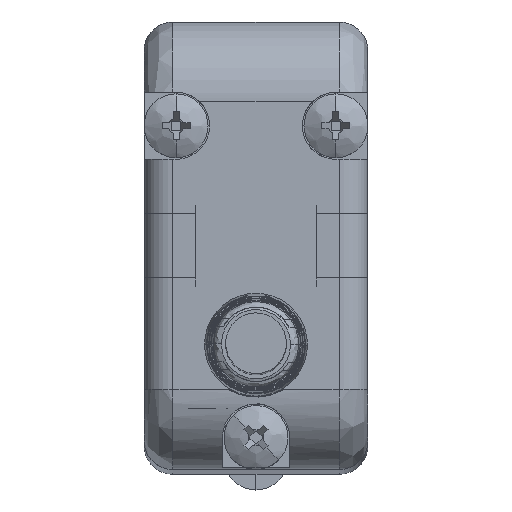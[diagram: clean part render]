
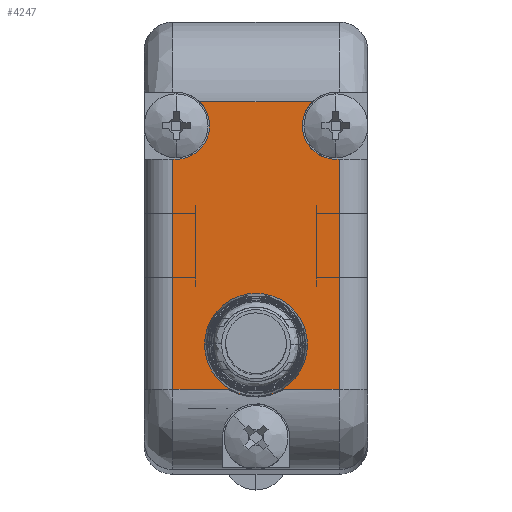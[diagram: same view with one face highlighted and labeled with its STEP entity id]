
A CAD part, top view. The second image highlights one B-rep face of the part: STEP entity #4247.
In plain terms, the highlighted planar face has unit normal (0, 0, 1).
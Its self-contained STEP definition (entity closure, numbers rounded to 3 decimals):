
#10 = CARTESIAN_POINT ( 'NONE',  ( -131.736, 28.822, 172.746 ) ) ;
#17 = CARTESIAN_POINT ( 'NONE',  ( -126.736, 15.122, 172.746 ) ) ;
#51 = EDGE_CURVE ( 'NONE', #11996, #1284, #303, .T. ) ;
#107 = CARTESIAN_POINT ( 'NONE',  ( -129.955, 15.157, 172.746 ) ) ;
#175 = LINE ( 'NONE', #1055, #6304 ) ;
#244 = DIRECTION ( 'NONE',  ( 1., 0., 0. ) ) ;
#303 = LINE ( 'NONE', #7861, #9903 ) ;
#339 = DIRECTION ( 'NONE',  ( 1., 0., 0. ) ) ;
#749 = CARTESIAN_POINT ( 'NONE',  ( -123.206, 30.322, 172.746 ) ) ;
#798 = EDGE_CURVE ( 'NONE', #5860, #9921, #5993, .T. ) ;
#936 = FACE_BOUND ( 'NONE', #7231, .T. ) ;
#1055 = CARTESIAN_POINT ( 'NONE',  ( -132.736, 26.722, 172.746 ) ) ;
#1160 = ORIENTED_EDGE ( 'NONE', *, *, #798, .F. ) ;
#1284 = VERTEX_POINT ( 'NONE', #749 ) ;
#1289 = DIRECTION ( 'NONE',  ( 0., 0., 1. ) ) ;
#1290 = EDGE_CURVE ( 'NONE', #1284, #4581, #4710, .T. ) ;
#1395 = EDGE_CURVE ( 'NONE', #1740, #9772, #3464, .T. ) ;
#1398 = EDGE_CURVE ( 'NONE', #6622, #12281, #175, .T. ) ;
#1499 = ORIENTED_EDGE ( 'NONE', *, *, #10835, .T. ) ;
#1699 = EDGE_CURVE ( 'NONE', #4384, #12281, #2804, .T. ) ;
#1703 = CARTESIAN_POINT ( 'NONE',  ( -130.266, 30.322, 172.746 ) ) ;
#1719 = VERTEX_POINT ( 'NONE', #8638 ) ;
#1740 = VERTEX_POINT ( 'NONE', #6887 ) ;
#1921 = DIRECTION ( 'NONE',  ( 0., 0., 1. ) ) ;
#1929 = DIRECTION ( 'NONE',  ( 0., 0., -1. ) ) ;
#1977 = CARTESIAN_POINT ( 'NONE',  ( -131.936, 21.322, 172.746 ) ) ;
#2210 = ORIENTED_EDGE ( 'NONE', *, *, #3969, .F. ) ;
#2219 = CARTESIAN_POINT ( 'NONE',  ( -131.736, 28.822, 172.746 ) ) ;
#2425 = VECTOR ( 'NONE', #4583, 1000. ) ;
#2804 = LINE ( 'NONE', #1977, #6503 ) ;
#2840 = EDGE_CURVE ( 'NONE', #12285, #5860, #9259, .T. ) ;
#3053 = CARTESIAN_POINT ( 'NONE',  ( -126.736, 15.122, 172.746 ) ) ;
#3107 = CARTESIAN_POINT ( 'NONE',  ( -121.536, 26.722, 172.746 ) ) ;
#3145 = VERTEX_POINT ( 'NONE', #12197 ) ;
#3200 = ORIENTED_EDGE ( 'NONE', *, *, #1395, .T. ) ;
#3464 = CIRCLE ( 'NONE', #5296, 3.219 ) ;
#3880 = VECTOR ( 'NONE', #4936, 1000. ) ;
#3890 = FACE_OUTER_BOUND ( 'NONE', #4741, .T. ) ;
#3969 = EDGE_CURVE ( 'NONE', #9921, #1719, #12265, .T. ) ;
#4095 = CARTESIAN_POINT ( 'NONE',  ( -125.037, 12.322, 172.746 ) ) ;
#4247 = ADVANCED_FACE ( 'NONE', ( #936, #3890 ), #5792, .F. ) ;
#4384 = VERTEX_POINT ( 'NONE', #6662 ) ;
#4581 = VERTEX_POINT ( 'NONE', #7956 ) ;
#4583 = DIRECTION ( 'NONE',  ( -1., 0., 0. ) ) ;
#4675 = EDGE_CURVE ( 'NONE', #3145, #11996, #10687, .T. ) ;
#4710 = CIRCLE ( 'NONE', #11725, 2.1 ) ;
#4715 = CARTESIAN_POINT ( 'NONE',  ( -121.736, 28.822, 172.746 ) ) ;
#4741 = EDGE_LOOP ( 'NONE', ( #6235, #2210, #1160, #7566, #1499, #9554, #5392, #11203, #6095, #8471, #6686 ) ) ;
#4766 = ORIENTED_EDGE ( 'NONE', *, *, #6156, .T. ) ;
#4850 = CIRCLE ( 'NONE', #11858, 2.1 ) ;
#4854 = CARTESIAN_POINT ( 'NONE',  ( -121.536, 12.322, 172.746 ) ) ;
#4873 = CARTESIAN_POINT ( 'NONE',  ( -131.736, 26.722, 172.746 ) ) ;
#4936 = DIRECTION ( 'NONE',  ( -1., 0., 0. ) ) ;
#5095 = DIRECTION ( 'NONE',  ( -1., 0., 0. ) ) ;
#5296 = AXIS2_PLACEMENT_3D ( 'NONE', #3053, #11557, #9669 ) ;
#5392 = ORIENTED_EDGE ( 'NONE', *, *, #51, .F. ) ;
#5546 = CARTESIAN_POINT ( 'NONE',  ( -120.736, 26.722, 172.746 ) ) ;
#5547 = DIRECTION ( 'NONE',  ( 1., 0., 0. ) ) ;
#5673 = AXIS2_PLACEMENT_3D ( 'NONE', #11436, #1929, #5856 ) ;
#5792 = PLANE ( 'NONE',  #5673 ) ;
#5856 = DIRECTION ( 'NONE',  ( 0., -1., 0. ) ) ;
#5860 = VERTEX_POINT ( 'NONE', #4854 ) ;
#5926 = DIRECTION ( 'NONE',  ( 0., 0., 1. ) ) ;
#5993 = LINE ( 'NONE', #11817, #3880 ) ;
#6095 = ORIENTED_EDGE ( 'NONE', *, *, #8347, .F. ) ;
#6156 = EDGE_CURVE ( 'NONE', #9772, #1740, #11795, .T. ) ;
#6197 = AXIS2_PLACEMENT_3D ( 'NONE', #8037, #8106, #5095 ) ;
#6235 = ORIENTED_EDGE ( 'NONE', *, *, #6759, .F. ) ;
#6245 = AXIS2_PLACEMENT_3D ( 'NONE', #17, #10642, #8754 ) ;
#6304 = VECTOR ( 'NONE', #8731, 1000. ) ;
#6503 = VECTOR ( 'NONE', #6668, 1000. ) ;
#6622 = VERTEX_POINT ( 'NONE', #4873 ) ;
#6662 = CARTESIAN_POINT ( 'NONE',  ( -131.936, 12.322, 172.746 ) ) ;
#6668 = DIRECTION ( 'NONE',  ( 0., 1., 0. ) ) ;
#6686 = ORIENTED_EDGE ( 'NONE', *, *, #1699, .F. ) ;
#6759 = EDGE_CURVE ( 'NONE', #1719, #4384, #8554, .T. ) ;
#6887 = CARTESIAN_POINT ( 'NONE',  ( -123.517, 15.086, 172.746 ) ) ;
#7231 = EDGE_LOOP ( 'NONE', ( #4766, #3200 ) ) ;
#7326 = CARTESIAN_POINT ( 'NONE',  ( -121.536, 21.322, 172.746 ) ) ;
#7413 = VECTOR ( 'NONE', #7604, 1000. ) ;
#7442 = DIRECTION ( 'NONE',  ( 0., -1., 0. ) ) ;
#7566 = ORIENTED_EDGE ( 'NONE', *, *, #2840, .F. ) ;
#7604 = DIRECTION ( 'NONE',  ( -1., 0., 0. ) ) ;
#7861 = CARTESIAN_POINT ( 'NONE',  ( -126.736, 30.322, 172.746 ) ) ;
#7956 = CARTESIAN_POINT ( 'NONE',  ( -121.736, 26.722, 172.746 ) ) ;
#8037 = CARTESIAN_POINT ( 'NONE',  ( -126.736, 15.122, 172.746 ) ) ;
#8106 = DIRECTION ( 'NONE',  ( 0., 0., -1. ) ) ;
#8347 = EDGE_CURVE ( 'NONE', #6622, #3145, #4850, .T. ) ;
#8471 = ORIENTED_EDGE ( 'NONE', *, *, #1398, .T. ) ;
#8554 = LINE ( 'NONE', #9732, #7413 ) ;
#8638 = CARTESIAN_POINT ( 'NONE',  ( -128.435, 12.322, 172.746 ) ) ;
#8731 = DIRECTION ( 'NONE',  ( -1., 0., 0. ) ) ;
#8754 = DIRECTION ( 'NONE',  ( -1., 0., 0. ) ) ;
#9259 = LINE ( 'NONE', #7326, #10124 ) ;
#9554 = ORIENTED_EDGE ( 'NONE', *, *, #1290, .F. ) ;
#9669 = DIRECTION ( 'NONE',  ( -1., 0., 0. ) ) ;
#9684 = DIRECTION ( 'NONE',  ( 1., 0., 0. ) ) ;
#9732 = CARTESIAN_POINT ( 'NONE',  ( -126.736, 12.322, 172.746 ) ) ;
#9772 = VERTEX_POINT ( 'NONE', #107 ) ;
#9903 = VECTOR ( 'NONE', #244, 1000. ) ;
#9908 = CARTESIAN_POINT ( 'NONE',  ( -131.936, 26.722, 172.746 ) ) ;
#9921 = VERTEX_POINT ( 'NONE', #4095 ) ;
#10124 = VECTOR ( 'NONE', #7442, 1000. ) ;
#10642 = DIRECTION ( 'NONE',  ( 0., 0., -1. ) ) ;
#10687 = CIRCLE ( 'NONE', #11680, 2.1 ) ;
#10835 = EDGE_CURVE ( 'NONE', #12285, #4581, #12255, .T. ) ;
#11203 = ORIENTED_EDGE ( 'NONE', *, *, #4675, .F. ) ;
#11436 = CARTESIAN_POINT ( 'NONE',  ( -121.536, 12.322, 172.746 ) ) ;
#11557 = DIRECTION ( 'NONE',  ( 0., 0., -1. ) ) ;
#11680 = AXIS2_PLACEMENT_3D ( 'NONE', #2219, #1289, #339 ) ;
#11725 = AXIS2_PLACEMENT_3D ( 'NONE', #4715, #1921, #5547 ) ;
#11795 = CIRCLE ( 'NONE', #6197, 3.219 ) ;
#11817 = CARTESIAN_POINT ( 'NONE',  ( -126.736, 12.322, 172.746 ) ) ;
#11858 = AXIS2_PLACEMENT_3D ( 'NONE', #10, #5926, #9684 ) ;
#11996 = VERTEX_POINT ( 'NONE', #1703 ) ;
#12197 = CARTESIAN_POINT ( 'NONE',  ( -129.636, 28.822, 172.746 ) ) ;
#12255 = LINE ( 'NONE', #5546, #2425 ) ;
#12265 = CIRCLE ( 'NONE', #6245, 3.275 ) ;
#12281 = VERTEX_POINT ( 'NONE', #9908 ) ;
#12285 = VERTEX_POINT ( 'NONE', #3107 ) ;
